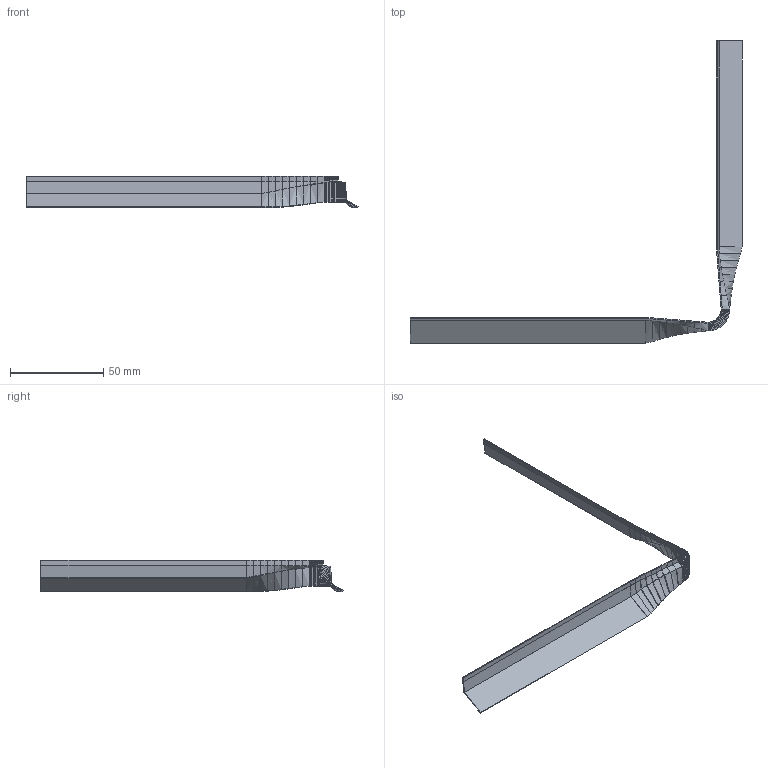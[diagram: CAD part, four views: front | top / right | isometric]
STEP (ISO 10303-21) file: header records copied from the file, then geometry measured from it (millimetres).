
FILE_DESCRIPTION(('Open CASCADE Model'),'2;1');
FILE_NAME('Open CASCADE Shape Model','2026-10-24T07:18:57',('Author'),( 'Open CASCADE'),'Open CASCADE STEP processor 8.0','build123d', 'Unknown');
FILE_SCHEMA(('AUTOMOTIVE_DESIGN { 1 0 10303 214 1 1 1 1 }'));
Length unit declared in the file: millimetre
Products named in the file (1): SOLID
Bounding box: 178.03 x 162.03 x 16.8 mm (x, y, z)
Volume: 4286.6 mm3; surface area: 14716.7 mm2
Topology: 1 solids, 1 shells, 354 faces, 712 edges, 360 vertices
Faces by surface type: bspline 222, plane 132
Entity records: 17108 total; most frequent: CARTESIAN_POINT 4219, DIRECTION 1700, LINE 1434, VECTOR 1434, ORIENTED_EDGE 1424, PCURVE 1424, DEFINITIONAL_REPRESENTATION 1424, EDGE_CURVE 712
